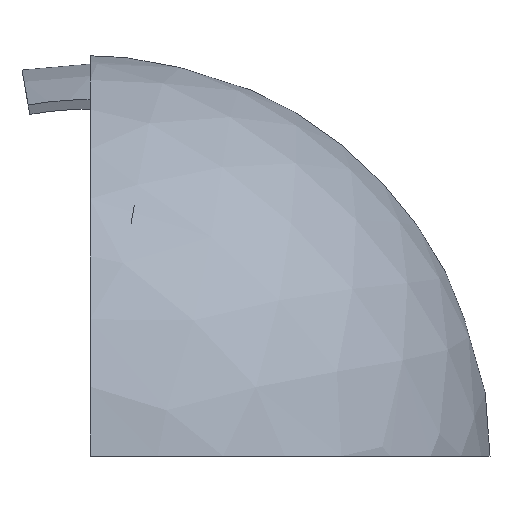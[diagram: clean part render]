
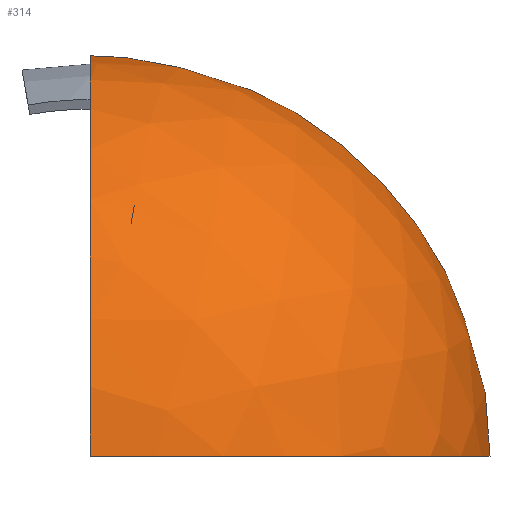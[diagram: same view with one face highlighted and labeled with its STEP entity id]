
A CAD part, front view. The second image highlights one B-rep face of the part: STEP entity #314.
In plain terms, the highlighted spherical face has radius 165 mm.
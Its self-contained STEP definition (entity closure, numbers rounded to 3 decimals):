
#30=SPHERICAL_SURFACE('',#373,165.);
#47=FACE_OUTER_BOUND('',#66,.T.);
#66=EDGE_LOOP('',(#266,#267,#268,#269,#270));
#98=CIRCLE('',#374,165.);
#99=CIRCLE('',#375,165.);
#100=CIRCLE('',#376,165.);
#101=CIRCLE('',#377,165.);
#156=VERTEX_POINT('',#576);
#157=VERTEX_POINT('',#577);
#158=VERTEX_POINT('',#579);
#159=VERTEX_POINT('',#581);
#198=EDGE_CURVE('',#156,#157,#98,.T.);
#199=EDGE_CURVE('',#158,#157,#99,.T.);
#200=EDGE_CURVE('',#159,#158,#100,.T.);
#201=EDGE_CURVE('',#156,#158,#101,.T.);
#266=ORIENTED_EDGE('',*,*,#198,.T.);
#267=ORIENTED_EDGE('',*,*,#199,.F.);
#268=ORIENTED_EDGE('',*,*,#200,.F.);
#269=ORIENTED_EDGE('',*,*,#200,.T.);
#270=ORIENTED_EDGE('',*,*,#201,.F.);
#314=ADVANCED_FACE('',(#47),#30,.T.);
#373=AXIS2_PLACEMENT_3D('',#575,#478,#479);
#374=AXIS2_PLACEMENT_3D('',#578,#480,#481);
#375=AXIS2_PLACEMENT_3D('',#580,#482,#483);
#376=AXIS2_PLACEMENT_3D('',#582,#484,#485);
#377=AXIS2_PLACEMENT_3D('',#583,#486,#487);
#478=DIRECTION('center_axis',(0.577,0.577,0.577));
#479=DIRECTION('ref_axis',(-0.707,0.,0.707));
#480=DIRECTION('center_axis',(1.,0.,0.));
#481=DIRECTION('ref_axis',(0.,1.,0.));
#482=DIRECTION('center_axis',(0.,0.,-1.));
#483=DIRECTION('ref_axis',(0.,1.,0.));
#484=DIRECTION('center_axis',(-0.408,0.816,-0.408));
#485=DIRECTION('ref_axis',(0.707,0.,-0.707));
#486=DIRECTION('center_axis',(0.,0.,-1.));
#487=DIRECTION('ref_axis',(0.,1.,0.));
#575=CARTESIAN_POINT('Origin',(0.,0.,0.));
#576=CARTESIAN_POINT('',(0.,165.,0.));
#577=CARTESIAN_POINT('',(0.,-165.,0.));
#578=CARTESIAN_POINT('Origin',(0.,0.,0.));
#579=CARTESIAN_POINT('',(147.58,73.79,0.));
#580=CARTESIAN_POINT('Origin',(0.,0.,
0.));
#581=CARTESIAN_POINT('',(95.263,95.263,95.263));
#582=CARTESIAN_POINT('Origin',(0.,0.,0.));
#583=CARTESIAN_POINT('Origin',(0.,0.,
0.));
